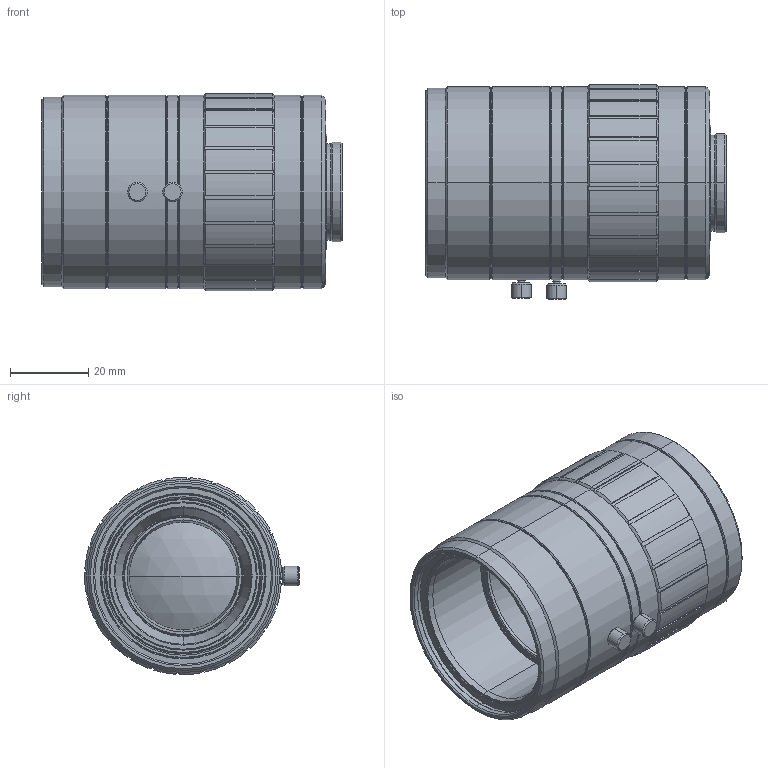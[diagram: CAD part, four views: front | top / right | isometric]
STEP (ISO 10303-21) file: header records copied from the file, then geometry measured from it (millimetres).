
FILE_DESCRIPTION (( 'STEP AP203' ), '1' );
FILE_NAME ('LLD50.STEP', '2015-02-12T05:19:08', ( 'miura_vst' ), ( '' ), 'SwSTEP 2.0', 'SolidWorks 2015', '' );
FILE_SCHEMA (( 'CONFIG_CONTROL_DESIGN' ));
Length unit declared in the file: millimetre
Products named in the file (1): LLD50
Bounding box: 76.97 x 55.03 x 50.5 mm (x, y, z)
Volume: 101626.5 mm3; surface area: 26056.3 mm2
Topology: 1 solids, 1 shells, 299 faces, 697 edges, 430 vertices
Faces by surface type: cone 108, plane 102, cylinder 85, sphere 4
Entity records: 8760 total; most frequent: CARTESIAN_POINT 1923, DIRECTION 1433, ORIENTED_EDGE 1394, EDGE_CURVE 697, AXIS2_PLACEMENT_3D 584, VERTEX_POINT 430, EDGE_LOOP 329, FACE_OUTER_BOUND 299
